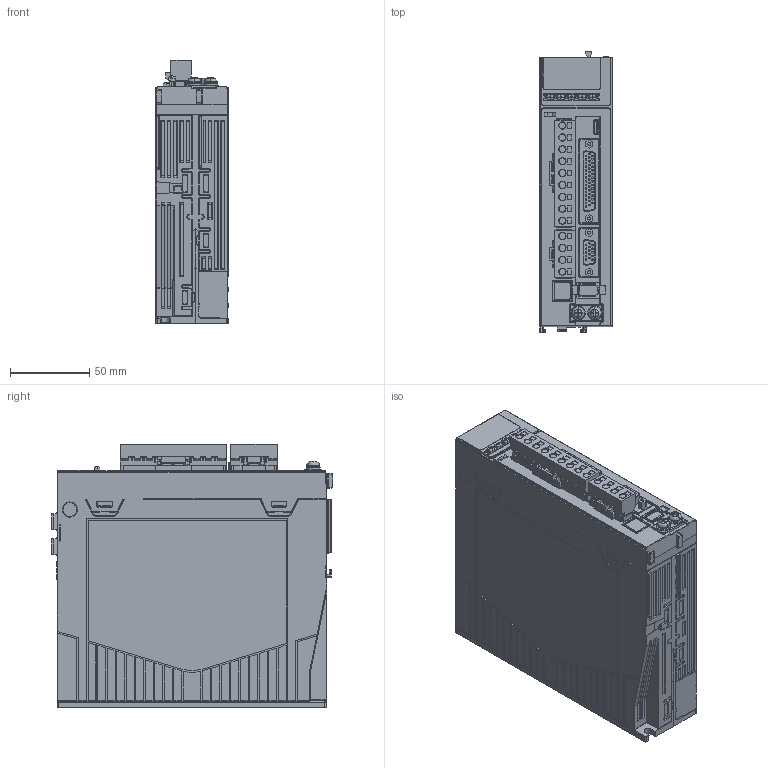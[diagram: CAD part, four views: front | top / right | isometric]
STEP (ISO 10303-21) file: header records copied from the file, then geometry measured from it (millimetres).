
FILE_DESCRIPTION((''),'2;1');
FILE_NAME('SV670P-SIZE-A_ASM_ASM','2022-09-26T',('l115853'),(''),'CREO PARAMETRIC BY PTC INC, 2015290','CREO PARAMETRIC BY PTC INC, 2015290','');
FILE_SCHEMA(('AUTOMOTIVE_DESIGN { 1 0 10303 214 1 1 1 1 }'));
Products named in the file (8): MSBR-7; MSBR-6; MSBR-5; MSBR-4; MSBR-3; MSBR-2; MSBR-1; SV670P-SIZE-A_ASM_ASM
Assembly tree (7 placements, depth 2):
  SV670P-SIZE-A_ASM_ASM
    MSBR-7
    MSBR-6
    MSBR-5
    MSBR-4
    MSBR-3
    MSBR-2
    MSBR-1
Bounding box: 45.5 x 177.5 x 166.2 mm (x, y, z)
Volume: 1158076.1 mm3; surface area: 107018 mm2
Topology: 7 solids, 8 shells, 4238 faces, 11192 edges, 7114 vertices
Faces by surface type: plane 2544, cylinder 1006, bspline 315, extrusion 136, torus 118, sphere 63, cone 56
Entity records: 196602 total; most frequent: CARTESIAN_POINT 64619, ORIENTED_EDGE 22230, DIRECTION 18975, EDGE_CURVE 11115, VECTOR 7849, LINE 7713, VERTEX_POINT 7114, AXIS2_PLACEMENT_3D 5563
